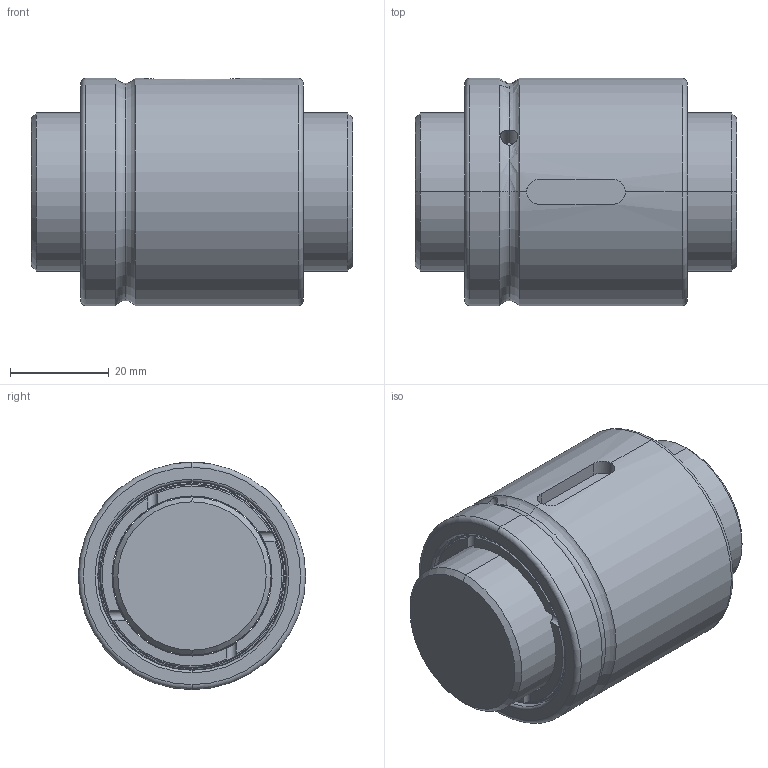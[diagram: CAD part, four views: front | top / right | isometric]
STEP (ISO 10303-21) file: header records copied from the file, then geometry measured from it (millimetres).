
FILE_DESCRIPTION (( 'STEP AP203' ), '1' );
FILE_NAME ('SCIR03205T4-C.STEP', '2020-06-17T07:38:03', ( '' ), ( '' ), 'SwSTEP 2.0', 'SolidWorks 2013', '' );
FILE_SCHEMA (( 'CONFIG_CONTROL_DESIGN' ));
Length unit declared in the file: millimetre
Products named in the file (1): SCIR03205T4-C
Bounding box: 65 x 46 x 46 mm (x, y, z)
Volume: 86303.2 mm3; surface area: 24358.3 mm2
Topology: 2 solids, 2 shells, 100 faces, 244 edges, 153 vertices
Faces by surface type: cylinder 43, torus 32, plane 21, cone 4
Entity records: 4125 total; most frequent: CARTESIAN_POINT 1718, DIRECTION 500, ORIENTED_EDGE 488, EDGE_CURVE 244, AXIS2_PLACEMENT_3D 223, VERTEX_POINT 153, CIRCLE 122, EDGE_LOOP 109
